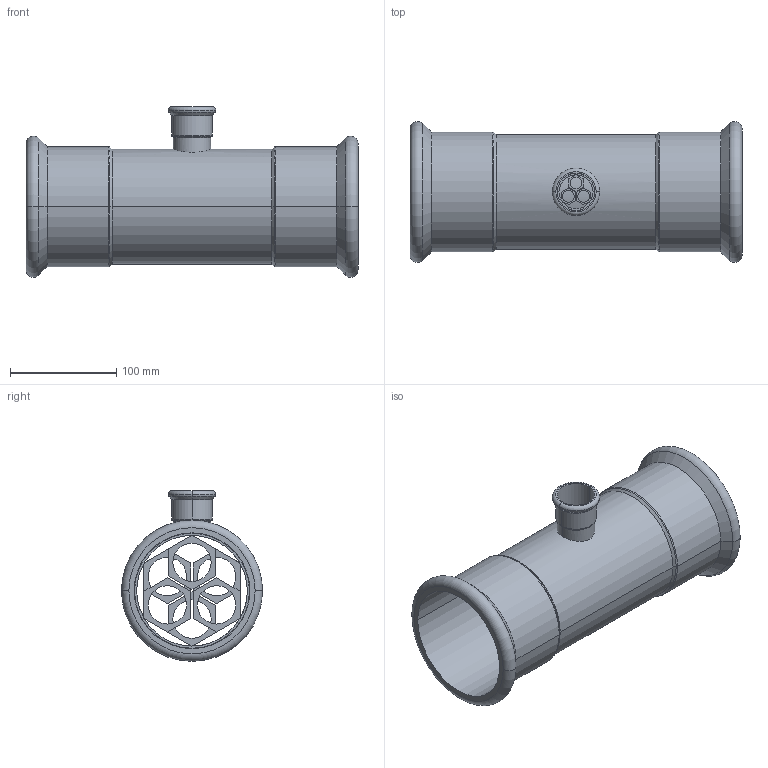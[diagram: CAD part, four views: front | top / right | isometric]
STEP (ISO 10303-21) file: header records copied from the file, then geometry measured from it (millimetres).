
FILE_DESCRIPTION(('OneSpaceDesigner STEP Export'),'2;1');
FILE_NAME('R2715 108x35x108.stp','2010-06-10T 9:40:49',(''),(''),'OneSpace Designer STEP processor for AP214 (Solid Model)','OneSpace Modeling 15.00A 14-Mar-2007 (C) CoCreate Software GmbH','');
FILE_SCHEMA(('AUTOMOTIVE_DESIGN { 1 0 10303 214 1 1 1 1 }'));
Length unit declared in the file: millimetre
Products named in the file (2): R2715_108x35x108
Assembly tree (1 placements, depth 2):
  R2715_108x35x108
    R2715_108x35x108
Bounding box: 312 x 132.58 x 160.29 mm (x, y, z)
Volume: 346348.1 mm3; surface area: 252008.3 mm2
Topology: 1 solids, 1 shells, 170 faces, 423 edges, 272 vertices
Faces by surface type: plane 90, cylinder 54, torus 14, cone 12
Entity records: 5639 total; most frequent: CARTESIAN_POINT 1914, ORIENTED_EDGE 846, DIRECTION 643, EDGE_CURVE 423, VERTEX_POINT 272, VECTOR 263, LINE 263, EDGE_LOOP 207
